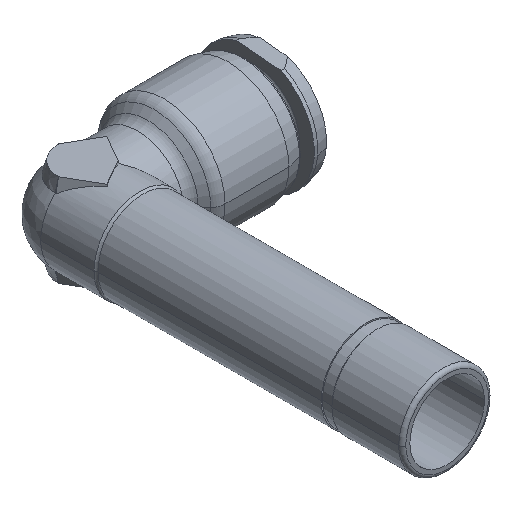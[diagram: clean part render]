
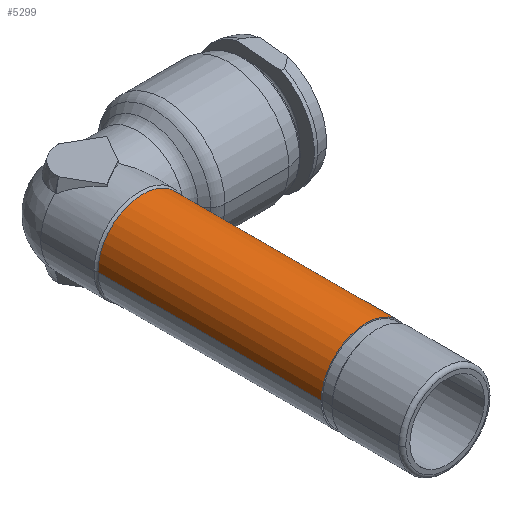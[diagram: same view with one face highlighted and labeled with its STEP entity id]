
A CAD part, isometric view. The second image highlights one B-rep face of the part: STEP entity #5299.
In plain terms, the highlighted cylindrical face has radius 6.325 mm (diameter 12.65 mm), a partial arc.
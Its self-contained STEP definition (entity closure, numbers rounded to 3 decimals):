
#35 = CARTESIAN_POINT ( 'NONE',  ( 6.325, -7.88, 0. ) ) ;
#113 = CARTESIAN_POINT ( 'NONE',  ( 6.325, 0., 0. ) ) ;
#168 = LINE ( 'NONE', #9591, #2344 ) ;
#266 = EDGE_CURVE ( 'NONE', #4638, #5510, #10645, .T. ) ;
#465 = EDGE_CURVE ( 'NONE', #10182, #3347, #168, .T. ) ;
#834 = AXIS2_PLACEMENT_3D ( 'NONE', #9035, #4028, #9841 ) ;
#1001 = DIRECTION ( 'NONE',  ( 0., 1., 0. ) ) ;
#1137 = FACE_OUTER_BOUND ( 'NONE', #9506, .T. ) ;
#1148 = CARTESIAN_POINT ( 'NONE',  ( 6.325, -39.3, 0. ) ) ;
#1510 = EDGE_CURVE ( 'NONE', #10182, #4638, #9578, .T. ) ;
#1610 = CARTESIAN_POINT ( 'NONE',  ( -6.325, -7.88, 0. ) ) ;
#1631 = DIRECTION ( 'NONE',  ( -1., 0., 0. ) ) ;
#1668 = DIRECTION ( 'NONE',  ( 0., 1., 0. ) ) ;
#1747 = CARTESIAN_POINT ( 'NONE',  ( 0., -39.3, 0. ) ) ;
#2128 = ORIENTED_EDGE ( 'NONE', *, *, #4287, .T. ) ;
#2284 = CYLINDRICAL_SURFACE ( 'NONE', #7638, 6.325 ) ;
#2344 = VECTOR ( 'NONE', #9023, 1000. ) ;
#3050 = DIRECTION ( 'NONE',  ( -1., 0., 0. ) ) ;
#3347 = VERTEX_POINT ( 'NONE', #1610 ) ;
#3811 = ORIENTED_EDGE ( 'NONE', *, *, #266, .T. ) ;
#4028 = DIRECTION ( 'NONE',  ( 0., -1., 0. ) ) ;
#4287 = EDGE_CURVE ( 'NONE', #5510, #3347, #9627, .T. ) ;
#4329 = VECTOR ( 'NONE', #1001, 1000. ) ;
#4638 = VERTEX_POINT ( 'NONE', #1148 ) ;
#4668 = CARTESIAN_POINT ( 'NONE',  ( -6.325, -39.3, 0. ) ) ;
#5299 = ADVANCED_FACE ( 'NONE', ( #1137 ), #2284, .T. ) ;
#5499 = DIRECTION ( 'NONE',  ( 0., 1., 0. ) ) ;
#5510 = VERTEX_POINT ( 'NONE', #35 ) ;
#5907 = ORIENTED_EDGE ( 'NONE', *, *, #465, .F. ) ;
#7638 = AXIS2_PLACEMENT_3D ( 'NONE', #8875, #5499, #3050 ) ;
#8875 = CARTESIAN_POINT ( 'NONE',  ( 0., 0., 0. ) ) ;
#9023 = DIRECTION ( 'NONE',  ( 0., 1., 0. ) ) ;
#9035 = CARTESIAN_POINT ( 'NONE',  ( 0., -7.88, 0. ) ) ;
#9506 = EDGE_LOOP ( 'NONE', ( #9923, #3811, #2128, #5907 ) ) ;
#9578 = CIRCLE ( 'NONE', #10226, 6.325 ) ;
#9591 = CARTESIAN_POINT ( 'NONE',  ( -6.325, 0., 0. ) ) ;
#9627 = CIRCLE ( 'NONE', #834, 6.325 ) ;
#9841 = DIRECTION ( 'NONE',  ( -1., 0., 0. ) ) ;
#9923 = ORIENTED_EDGE ( 'NONE', *, *, #1510, .T. ) ;
#10182 = VERTEX_POINT ( 'NONE', #4668 ) ;
#10226 = AXIS2_PLACEMENT_3D ( 'NONE', #1747, #1668, #1631 ) ;
#10645 = LINE ( 'NONE', #113, #4329 ) ;
